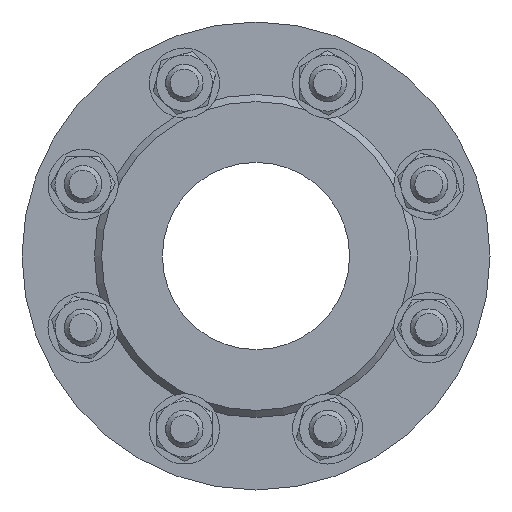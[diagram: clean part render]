
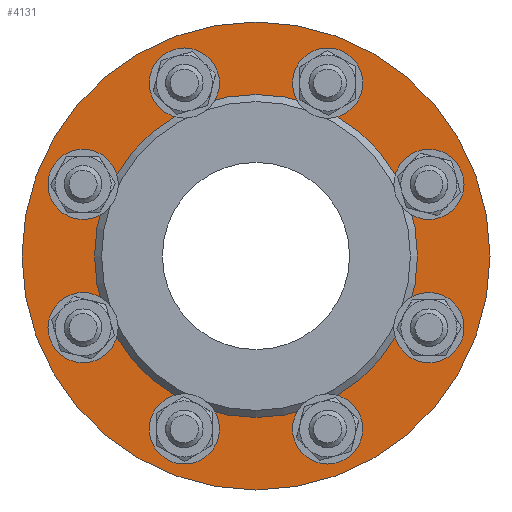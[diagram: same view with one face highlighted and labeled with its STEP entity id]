
A CAD part, left-side view. The second image highlights one B-rep face of the part: STEP entity #4131.
In plain terms, the highlighted planar face has unit normal (-1, 0, 0).
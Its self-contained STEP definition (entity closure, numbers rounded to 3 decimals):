
#350 = AXIS2_PLACEMENT_3D ( 'NONE', #19408, #26010, #14548 ) ;
#511 = CARTESIAN_POINT ( 'NONE',  ( -10., 73.91, 30.615 ) ) ;
#713 = DIRECTION ( 'NONE',  ( 0., -1., 0. ) ) ;
#906 = AXIS2_PLACEMENT_3D ( 'NONE', #8055, #12251, #25460 ) ;
#1279 = DIRECTION ( 'NONE',  ( 0., 0., -1. ) ) ;
#1377 = CARTESIAN_POINT ( 'NONE',  ( -10., 30.615, -81.91 ) ) ;
#1598 = DIRECTION ( 'NONE',  ( 0., -1., 0. ) ) ;
#1707 = PLANE ( 'NONE',  #350 ) ;
#1957 = DIRECTION ( 'NONE',  ( -1., 0., 0. ) ) ;
#2318 = ORIENTED_EDGE ( 'NONE', *, *, #22207, .F. ) ;
#2347 = AXIS2_PLACEMENT_3D ( 'NONE', #14443, #8077, #1598 ) ;
#2648 = EDGE_LOOP ( 'NONE', ( #20220 ) ) ;
#3560 = CIRCLE ( 'NONE', #16457, 8. ) ;
#3718 = FACE_BOUND ( 'NONE', #22271, .T. ) ;
#4131 = ADVANCED_FACE ( 'NONE', ( #14690, #10647, #16686, #10786, #3718, #28043, #21290, #6167, #25448, #23886 ), #1707, .F. ) ;
#4688 = EDGE_CURVE ( 'NONE', #23690, #23690, #3560, .T. ) ;
#4956 = DIRECTION ( 'NONE',  ( 0., 0., -1. ) ) ;
#5070 = VERTEX_POINT ( 'NONE', #9261 ) ;
#5910 = EDGE_CURVE ( 'NONE', #12755, #12755, #13797, .T. ) ;
#6167 = FACE_BOUND ( 'NONE', #7605, .T. ) ;
#6411 = EDGE_CURVE ( 'NONE', #17209, #17209, #28022, .T. ) ;
#6763 = VERTEX_POINT ( 'NONE', #9502 ) ;
#6928 = CARTESIAN_POINT ( 'NONE',  ( -10., 30.615, -73.91 ) ) ;
#7394 = EDGE_LOOP ( 'NONE', ( #28485 ) ) ;
#7605 = EDGE_LOOP ( 'NONE', ( #20732 ) ) ;
#8055 = CARTESIAN_POINT ( 'NONE',  ( -10., 30.615, 73.91 ) ) ;
#8077 = DIRECTION ( 'NONE',  ( -1., 0., 0. ) ) ;
#8166 = EDGE_LOOP ( 'NONE', ( #10010 ) ) ;
#8324 = CARTESIAN_POINT ( 'NONE',  ( -10., -100., 0. ) ) ;
#8415 = CARTESIAN_POINT ( 'NONE',  ( -10., -30.615, -73.91 ) ) ;
#8512 = DIRECTION ( 'NONE',  ( 0., 0., -1. ) ) ;
#9051 = EDGE_CURVE ( 'NONE', #5070, #5070, #10181, .T. ) ;
#9223 = VERTEX_POINT ( 'NONE', #24751 ) ;
#9261 = CARTESIAN_POINT ( 'NONE',  ( -10., -69., 0. ) ) ;
#9502 = CARTESIAN_POINT ( 'NONE',  ( -10., 73.91, 22.615 ) ) ;
#9876 = CIRCLE ( 'NONE', #19539, 8. ) ;
#10010 = ORIENTED_EDGE ( 'NONE', *, *, #17856, .F. ) ;
#10181 = CIRCLE ( 'NONE', #2347, 69. ) ;
#10307 = CARTESIAN_POINT ( 'NONE',  ( -10., 73.91, -38.615 ) ) ;
#10647 = FACE_BOUND ( 'NONE', #7394, .T. ) ;
#10778 = VERTEX_POINT ( 'NONE', #8324 ) ;
#10786 = FACE_BOUND ( 'NONE', #8166, .T. ) ;
#11015 = DIRECTION ( 'NONE',  ( -1., 0., 0. ) ) ;
#11017 = ORIENTED_EDGE ( 'NONE', *, *, #9051, .F. ) ;
#11043 = AXIS2_PLACEMENT_3D ( 'NONE', #19374, #28144, #15070 ) ;
#11809 = CARTESIAN_POINT ( 'NONE',  ( -10., -30.615, 65.91 ) ) ;
#12251 = DIRECTION ( 'NONE',  ( -1., 0., 0. ) ) ;
#12755 = VERTEX_POINT ( 'NONE', #21519 ) ;
#13609 = EDGE_LOOP ( 'NONE', ( #2318 ) ) ;
#13797 = CIRCLE ( 'NONE', #11043, 8. ) ;
#13832 = ORIENTED_EDGE ( 'NONE', *, *, #25230, .F. ) ;
#14384 = AXIS2_PLACEMENT_3D ( 'NONE', #511, #24682, #4956 ) ;
#14392 = DIRECTION ( 'NONE',  ( -1., 0., 0. ) ) ;
#14443 = CARTESIAN_POINT ( 'NONE',  ( -10., 0., 0. ) ) ;
#14452 = EDGE_LOOP ( 'NONE', ( #11017 ) ) ;
#14548 = DIRECTION ( 'NONE',  ( 0., 1., 0. ) ) ;
#14690 = FACE_BOUND ( 'NONE', #22693, .T. ) ;
#14708 = AXIS2_PLACEMENT_3D ( 'NONE', #27032, #14392, #713 ) ;
#15070 = DIRECTION ( 'NONE',  ( 0., 0., -1. ) ) ;
#15392 = EDGE_CURVE ( 'NONE', #26184, #26184, #27090, .T. ) ;
#15635 = AXIS2_PLACEMENT_3D ( 'NONE', #6928, #24908, #1279 ) ;
#15642 = DIRECTION ( 'NONE',  ( 0., 0., -1. ) ) ;
#16457 = AXIS2_PLACEMENT_3D ( 'NONE', #26117, #1957, #15642 ) ;
#16507 = CARTESIAN_POINT ( 'NONE',  ( -10., -73.91, 30.615 ) ) ;
#16686 = FACE_BOUND ( 'NONE', #18412, .T. ) ;
#16816 = VERTEX_POINT ( 'NONE', #11809 ) ;
#17100 = CIRCLE ( 'NONE', #14384, 8. ) ;
#17209 = VERTEX_POINT ( 'NONE', #1377 ) ;
#17764 = DIRECTION ( 'NONE',  ( 0., 0., -1. ) ) ;
#17856 = EDGE_CURVE ( 'NONE', #6763, #6763, #17100, .T. ) ;
#18309 = CIRCLE ( 'NONE', #27043, 8. ) ;
#18412 = EDGE_LOOP ( 'NONE', ( #27091 ) ) ;
#18831 = CARTESIAN_POINT ( 'NONE',  ( -10., -30.615, -81.91 ) ) ;
#19374 = CARTESIAN_POINT ( 'NONE',  ( -10., -73.91, -30.615 ) ) ;
#19408 = CARTESIAN_POINT ( 'NONE',  ( -10., 0., 100. ) ) ;
#19539 = AXIS2_PLACEMENT_3D ( 'NONE', #8415, #11015, #17764 ) ;
#19914 = ORIENTED_EDGE ( 'NONE', *, *, #28200, .T. ) ;
#19978 = DIRECTION ( 'NONE',  ( -1., 0., 0. ) ) ;
#20200 = EDGE_CURVE ( 'NONE', #9223, #9223, #25928, .T. ) ;
#20220 = ORIENTED_EDGE ( 'NONE', *, *, #4688, .F. ) ;
#20732 = ORIENTED_EDGE ( 'NONE', *, *, #6411, .F. ) ;
#21290 = FACE_BOUND ( 'NONE', #13609, .T. ) ;
#21519 = CARTESIAN_POINT ( 'NONE',  ( -10., -73.91, -38.615 ) ) ;
#21998 = DIRECTION ( 'NONE',  ( 0., 0., -1. ) ) ;
#22207 = EDGE_CURVE ( 'NONE', #25439, #25439, #9876, .T. ) ;
#22271 = EDGE_LOOP ( 'NONE', ( #26868 ) ) ;
#22693 = EDGE_LOOP ( 'NONE', ( #13832 ) ) ;
#23690 = VERTEX_POINT ( 'NONE', #10307 ) ;
#23886 = FACE_OUTER_BOUND ( 'NONE', #24116, .T. ) ;
#24116 = EDGE_LOOP ( 'NONE', ( #19914 ) ) ;
#24682 = DIRECTION ( 'NONE',  ( -1., 0., 0. ) ) ;
#24751 = CARTESIAN_POINT ( 'NONE',  ( -10., -73.91, 22.615 ) ) ;
#24908 = DIRECTION ( 'NONE',  ( -1., 0., 0. ) ) ;
#25230 = EDGE_CURVE ( 'NONE', #16816, #16816, #18309, .T. ) ;
#25439 = VERTEX_POINT ( 'NONE', #18831 ) ;
#25448 = FACE_BOUND ( 'NONE', #14452, .T. ) ;
#25460 = DIRECTION ( 'NONE',  ( 0., 0., -1. ) ) ;
#25777 = DIRECTION ( 'NONE',  ( -1., 0., 0. ) ) ;
#25928 = CIRCLE ( 'NONE', #26859, 8. ) ;
#26010 = DIRECTION ( 'NONE',  ( 1., 0., 0. ) ) ;
#26117 = CARTESIAN_POINT ( 'NONE',  ( -10., 73.91, -30.615 ) ) ;
#26184 = VERTEX_POINT ( 'NONE', #28066 ) ;
#26859 = AXIS2_PLACEMENT_3D ( 'NONE', #16507, #19978, #21998 ) ;
#26868 = ORIENTED_EDGE ( 'NONE', *, *, #20200, .F. ) ;
#27032 = CARTESIAN_POINT ( 'NONE',  ( -10., 0., 0. ) ) ;
#27043 = AXIS2_PLACEMENT_3D ( 'NONE', #28363, #25777, #8512 ) ;
#27080 = CIRCLE ( 'NONE', #14708, 100. ) ;
#27090 = CIRCLE ( 'NONE', #906, 8. ) ;
#27091 = ORIENTED_EDGE ( 'NONE', *, *, #5910, .F. ) ;
#28022 = CIRCLE ( 'NONE', #15635, 8. ) ;
#28043 = FACE_BOUND ( 'NONE', #2648, .T. ) ;
#28066 = CARTESIAN_POINT ( 'NONE',  ( -10., 30.615, 65.91 ) ) ;
#28144 = DIRECTION ( 'NONE',  ( -1., 0., 0. ) ) ;
#28200 = EDGE_CURVE ( 'NONE', #10778, #10778, #27080, .T. ) ;
#28363 = CARTESIAN_POINT ( 'NONE',  ( -10., -30.615, 73.91 ) ) ;
#28485 = ORIENTED_EDGE ( 'NONE', *, *, #15392, .F. ) ;
